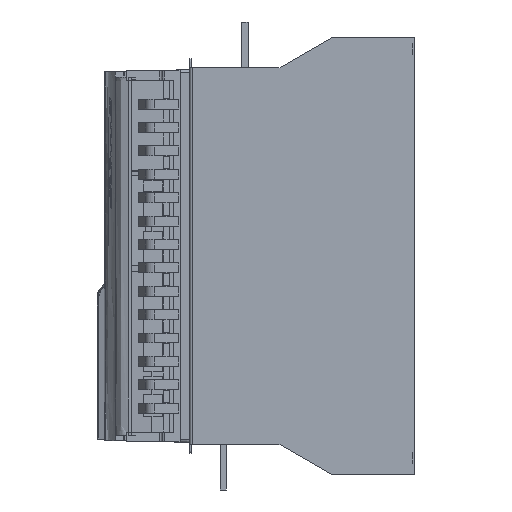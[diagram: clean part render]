
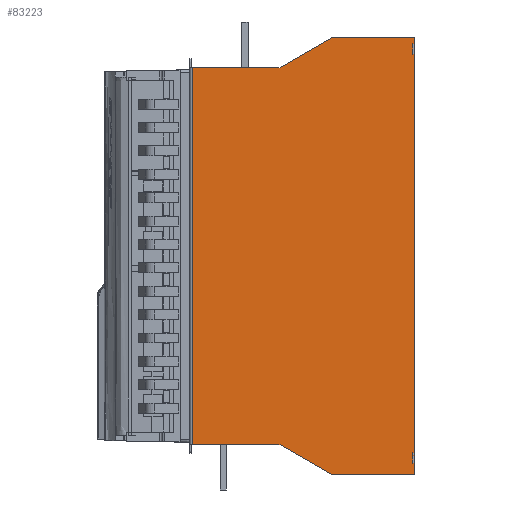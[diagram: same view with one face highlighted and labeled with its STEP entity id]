
A CAD part, left-side view. The second image highlights one B-rep face of the part: STEP entity #83223.
In plain terms, the highlighted planar face has unit normal (-1, 0, 0).
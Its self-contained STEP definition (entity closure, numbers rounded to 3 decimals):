
#18749 = VECTOR ( 'NONE', #20905, 1000. ) ;
#18759 = LINE ( 'NONE', #20902, #18749 ) ;
#18770 = VECTOR ( 'NONE', #20734, 1000. ) ;
#18776 = LINE ( 'NONE', #20739, #18770 ) ;
#20734 = DIRECTION ( 'NONE',  ( 0., 0., -1. ) ) ;
#20739 = CARTESIAN_POINT ( 'NONE',  ( -210., 146.2, 280.1 ) ) ;
#20902 = CARTESIAN_POINT ( 'NONE',  ( -210., 147., 280.1 ) ) ;
#20905 = DIRECTION ( 'NONE',  ( 0., 1., 0. ) ) ;
#33887 = CARTESIAN_POINT ( 'NONE',  ( -210., 14.41, 280.1 ) ) ;
#33934 = CARTESIAN_POINT ( 'NONE',  ( -210., 146.2, 251.7 ) ) ;
#34078 = CARTESIAN_POINT ( 'NONE',  ( -210., 63.6, 251.7 ) ) ;
#34216 = CARTESIAN_POINT ( 'NONE',  ( -210., 146.2, -103.1 ) ) ;
#36726 = VECTOR ( 'NONE', #103998, 1000. ) ;
#36805 = LINE ( 'NONE', #103922, #36726 ) ;
#41137 = EDGE_LOOP ( 'NONE', ( #49164, #49085, #49071, #48703, #48759, #48425, #48755, #48470 ) ) ;
#48425 = ORIENTED_EDGE ( 'NONE', *, *, #64895, .F. ) ;
#48470 = ORIENTED_EDGE ( 'NONE', *, *, #69343, .F. ) ;
#48703 = ORIENTED_EDGE ( 'NONE', *, *, #70230, .T. ) ;
#48755 = ORIENTED_EDGE ( 'NONE', *, *, #64934, .F. ) ;
#48759 = ORIENTED_EDGE ( 'NONE', *, *, #64926, .F. ) ;
#49071 = ORIENTED_EDGE ( 'NONE', *, *, #64914, .F. ) ;
#49085 = ORIENTED_EDGE ( 'NONE', *, *, #64880, .F. ) ;
#49164 = ORIENTED_EDGE ( 'NONE', *, *, #70244, .T. ) ;
#55399 = VERTEX_POINT ( 'NONE', #108487 ) ;
#55409 = VERTEX_POINT ( 'NONE', #108303 ) ;
#55528 = VERTEX_POINT ( 'NONE', #108515 ) ;
#55615 = VERTEX_POINT ( 'NONE', #108518 ) ;
#64880 = EDGE_CURVE ( 'NONE', #98246, #98101, #98295, .T. ) ;
#64895 = EDGE_CURVE ( 'NONE', #55528, #55399, #99649, .T. ) ;
#64914 = EDGE_CURVE ( 'NONE', #98141, #98246, #99853, .T. ) ;
#64926 = EDGE_CURVE ( 'NONE', #55399, #98396, #99538, .T. ) ;
#64934 = EDGE_CURVE ( 'NONE', #55615, #55528, #98519, .T. ) ;
#69343 = EDGE_CURVE ( 'NONE', #55409, #55615, #36805, .T. ) ;
#70230 = EDGE_CURVE ( 'NONE', #98141, #98396, #18776, .T. ) ;
#70244 = EDGE_CURVE ( 'NONE', #55409, #98101, #18759, .T. ) ;
#83223 = ADVANCED_FACE ( 'NONE', ( #126488 ), #101120, .T. ) ;
#98101 = VERTEX_POINT ( 'NONE', #33887 ) ;
#98141 = VERTEX_POINT ( 'NONE', #33934 ) ;
#98246 = VERTEX_POINT ( 'NONE', #34078 ) ;
#98295 = LINE ( 'NONE', #119194, #98642 ) ;
#98333 = VECTOR ( 'NONE', #120170, 1000. ) ;
#98396 = VERTEX_POINT ( 'NONE', #34216 ) ;
#98519 = LINE ( 'NONE', #120167, #98333 ) ;
#98642 = VECTOR ( 'NONE', #119160, 1000. ) ;
#99361 = VECTOR ( 'NONE', #119879, 1000. ) ;
#99538 = LINE ( 'NONE', #119980, #99361 ) ;
#99649 = LINE ( 'NONE', #119466, #99655 ) ;
#99655 = VECTOR ( 'NONE', #119469, 1000. ) ;
#99853 = LINE ( 'NONE', #119738, #99870 ) ;
#99870 = VECTOR ( 'NONE', #119692, 1000. ) ;
#101120 = PLANE ( 'NONE',  #134841 ) ;
#101128 = CARTESIAN_POINT ( 'NONE',  ( -210., 147., 280.1 ) ) ;
#101129 = DIRECTION ( 'NONE',  ( -1., 0., 0. ) ) ;
#101130 = DIRECTION ( 'NONE',  ( 0., -1., 0. ) ) ;
#103922 = CARTESIAN_POINT ( 'NONE',  ( -210., -63., 280.1 ) ) ;
#103998 = DIRECTION ( 'NONE',  ( 0., 0., -1. ) ) ;
#108303 = CARTESIAN_POINT ( 'NONE',  ( -210., -63., 280.1 ) ) ;
#108487 = CARTESIAN_POINT ( 'NONE',  ( -210., 63.6, -103.1 ) ) ;
#108515 = CARTESIAN_POINT ( 'NONE',  ( -210., 14.41, -131.5 ) ) ;
#108518 = CARTESIAN_POINT ( 'NONE',  ( -210., -63., -131.5 ) ) ;
#119160 = DIRECTION ( 'NONE',  ( 0., -0.866, 0.5 ) ) ;
#119194 = CARTESIAN_POINT ( 'NONE',  ( -210., 113.852, 222.687 ) ) ;
#119466 = CARTESIAN_POINT ( 'NONE',  ( -210., 292.08, 28.813 ) ) ;
#119469 = DIRECTION ( 'NONE',  ( 0., 0.866, 0.5 ) ) ;
#119692 = DIRECTION ( 'NONE',  ( 0., -1., 0. ) ) ;
#119738 = CARTESIAN_POINT ( 'NONE',  ( -210., 147., 251.7 ) ) ;
#119879 = DIRECTION ( 'NONE',  ( 0., 1., 0. ) ) ;
#119980 = CARTESIAN_POINT ( 'NONE',  ( -210., 147., -103.1 ) ) ;
#120167 = CARTESIAN_POINT ( 'NONE',  ( -210., 147., -131.5 ) ) ;
#120170 = DIRECTION ( 'NONE',  ( 0., 1., 0. ) ) ;
#126488 = FACE_OUTER_BOUND ( 'NONE', #41137, .T. ) ;
#134841 = AXIS2_PLACEMENT_3D ( 'NONE', #101128, #101129, #101130 ) ;
